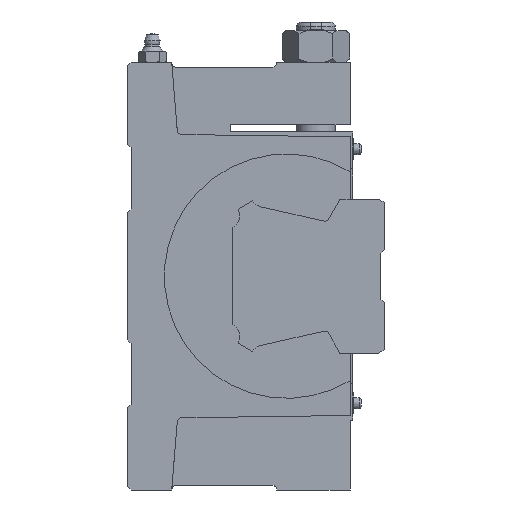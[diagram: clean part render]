
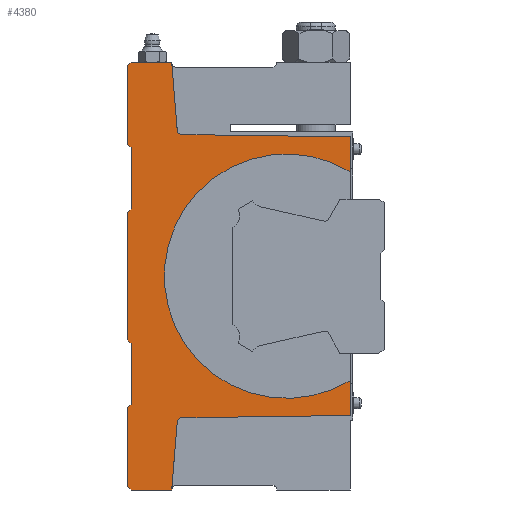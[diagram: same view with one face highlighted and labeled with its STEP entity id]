
A CAD part, left-side view. The second image highlights one B-rep face of the part: STEP entity #4380.
In plain terms, the highlighted planar face has unit normal (-1, 0, 0).
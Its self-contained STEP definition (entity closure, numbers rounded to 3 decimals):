
#221=CIRCLE('',#4725,2.);
#222=CIRCLE('',#4729,2.);
#231=CIRCLE('',#4763,50.);
#1007=ORIENTED_EDGE('',*,*,#1986,.F.);
#1008=ORIENTED_EDGE('',*,*,#1794,.F.);
#1009=ORIENTED_EDGE('',*,*,#1917,.F.);
#1010=ORIENTED_EDGE('',*,*,#1916,.T.);
#1011=ORIENTED_EDGE('',*,*,#1935,.F.);
#1012=ORIENTED_EDGE('',*,*,#1927,.F.);
#1013=ORIENTED_EDGE('',*,*,#1922,.F.);
#1014=ORIENTED_EDGE('',*,*,#1983,.F.);
#1015=ORIENTED_EDGE('',*,*,#1978,.F.);
#1016=ORIENTED_EDGE('',*,*,#1975,.F.);
#1017=ORIENTED_EDGE('',*,*,#1972,.F.);
#1018=ORIENTED_EDGE('',*,*,#1969,.F.);
#1019=ORIENTED_EDGE('',*,*,#1966,.F.);
#1020=ORIENTED_EDGE('',*,*,#1963,.F.);
#1021=ORIENTED_EDGE('',*,*,#1960,.F.);
#1022=ORIENTED_EDGE('',*,*,#1957,.F.);
#1023=ORIENTED_EDGE('',*,*,#1952,.F.);
#1024=ORIENTED_EDGE('',*,*,#1949,.F.);
#1025=ORIENTED_EDGE('',*,*,#1946,.F.);
#1026=ORIENTED_EDGE('',*,*,#1921,.T.);
#1027=ORIENTED_EDGE('',*,*,#1918,.F.);
#1028=ORIENTED_EDGE('',*,*,#1796,.F.);
#1794=EDGE_CURVE('',#2364,#2360,#2744,.T.);
#1796=EDGE_CURVE('',#2365,#2367,#2746,.T.);
#1916=EDGE_CURVE('',#2443,#2444,#221,.T.);
#1917=EDGE_CURVE('',#2443,#2364,#2848,.T.);
#1918=EDGE_CURVE('',#2367,#2445,#2849,.T.);
#1921=EDGE_CURVE('',#2446,#2445,#222,.T.);
#1922=EDGE_CURVE('',#2447,#2448,#2852,.T.);
#1927=EDGE_CURVE('',#2448,#2452,#2856,.T.);
#1935=EDGE_CURVE('',#2452,#2444,#2862,.T.);
#1946=EDGE_CURVE('',#2446,#2462,#2869,.T.);
#1949=EDGE_CURVE('',#2462,#2464,#2872,.T.);
#1952=EDGE_CURVE('',#2464,#2466,#2875,.T.);
#1957=EDGE_CURVE('',#2466,#2470,#2878,.T.);
#1960=EDGE_CURVE('',#2470,#2472,#2881,.T.);
#1963=EDGE_CURVE('',#2472,#2474,#2884,.T.);
#1966=EDGE_CURVE('',#2474,#2476,#2887,.T.);
#1969=EDGE_CURVE('',#2476,#2478,#2890,.T.);
#1972=EDGE_CURVE('',#2478,#2480,#2893,.T.);
#1975=EDGE_CURVE('',#2480,#2482,#2896,.T.);
#1978=EDGE_CURVE('',#2482,#2484,#2899,.T.);
#1983=EDGE_CURVE('',#2484,#2447,#2902,.T.);
#1986=EDGE_CURVE('',#2360,#2365,#231,.F.);
#2360=VERTEX_POINT('',#6712);
#2364=VERTEX_POINT('',#6721);
#2365=VERTEX_POINT('',#6725);
#2367=VERTEX_POINT('',#6728);
#2443=VERTEX_POINT('',#6949);
#2444=VERTEX_POINT('',#6951);
#2445=VERTEX_POINT('',#6957);
#2446=VERTEX_POINT('',#6961);
#2447=VERTEX_POINT('',#6965);
#2448=VERTEX_POINT('',#6966);
#2452=VERTEX_POINT('',#6976);
#2462=VERTEX_POINT('',#7011);
#2464=VERTEX_POINT('',#7017);
#2466=VERTEX_POINT('',#7023);
#2470=VERTEX_POINT('',#7033);
#2472=VERTEX_POINT('',#7039);
#2474=VERTEX_POINT('',#7045);
#2476=VERTEX_POINT('',#7051);
#2478=VERTEX_POINT('',#7057);
#2480=VERTEX_POINT('',#7063);
#2482=VERTEX_POINT('',#7069);
#2484=VERTEX_POINT('',#7075);
#2744=LINE('',#6722,#3140);
#2746=LINE('',#6727,#3142);
#2848=LINE('',#6954,#3244);
#2849=LINE('',#6956,#3245);
#2852=LINE('',#6964,#3248);
#2856=LINE('',#6975,#3252);
#2862=LINE('',#6989,#3258);
#2869=LINE('',#7010,#3265);
#2872=LINE('',#7016,#3268);
#2875=LINE('',#7022,#3271);
#2878=LINE('',#7032,#3274);
#2881=LINE('',#7038,#3277);
#2884=LINE('',#7044,#3280);
#2887=LINE('',#7050,#3283);
#2890=LINE('',#7056,#3286);
#2893=LINE('',#7062,#3289);
#2896=LINE('',#7068,#3292);
#2899=LINE('',#7074,#3295);
#2902=LINE('',#7084,#3298);
#3140=VECTOR('',#5385,1000.);
#3142=VECTOR('',#5389,1000.);
#3244=VECTOR('',#5585,1000.);
#3245=VECTOR('',#5588,1000.);
#3248=VECTOR('',#5597,1000.);
#3252=VECTOR('',#5605,1000.);
#3258=VECTOR('',#5617,1000.);
#3265=VECTOR('',#5642,1000.);
#3268=VECTOR('',#5647,1000.);
#3271=VECTOR('',#5652,1000.);
#3274=VECTOR('',#5661,1000.);
#3277=VECTOR('',#5666,1000.);
#3280=VECTOR('',#5671,1000.);
#3283=VECTOR('',#5676,1000.);
#3286=VECTOR('',#5681,1000.);
#3289=VECTOR('',#5686,1000.);
#3292=VECTOR('',#5691,1000.);
#3295=VECTOR('',#5696,1000.);
#3298=VECTOR('',#5705,1000.);
#3578=EDGE_LOOP('',(#1007,#1008,#1009,#1010,#1011,#1012,#1013,#1014,#1015,
#1016,#1017,#1018,#1019,#1020,#1021,#1022,#1023,#1024,#1025,#1026,#1027,
#1028));
#3930=FACE_BOUND('',#3578,.T.);
#4178=PLANE('',#4762);
#4380=ADVANCED_FACE('',(#3930),#4178,.F.);
#4725=AXIS2_PLACEMENT_3D('',#6952,#5581,#5582);
#4729=AXIS2_PLACEMENT_3D('',#6962,#5593,#5594);
#4762=AXIS2_PLACEMENT_3D('',#7088,#5711,#5712);
#4763=AXIS2_PLACEMENT_3D('',#7089,#5713,#5714);
#5385=DIRECTION('',(0.,0.,-1.));
#5389=DIRECTION('',(0.,0.,-1.));
#5581=DIRECTION('',(1.,0.,0.));
#5582=DIRECTION('',(0.,0.,-1.));
#5585=DIRECTION('',(0.,-1.,-0.014));
#5588=DIRECTION('',(0.,1.,-0.014));
#5593=DIRECTION('',(1.,0.,0.));
#5594=DIRECTION('',(0.,0.,-1.));
#5597=DIRECTION('',(0.,-0.707,0.707));
#5605=DIRECTION('',(0.,-1.,0.));
#5617=DIRECTION('',(0.,-0.081,-0.997));
#5642=DIRECTION('',(0.,0.081,-0.997));
#5647=DIRECTION('',(0.,1.,0.));
#5652=DIRECTION('',(0.,0.707,0.707));
#5661=DIRECTION('',(0.,0.,1.));
#5666=DIRECTION('',(0.,-0.707,0.707));
#5671=DIRECTION('',(0.,0.,1.));
#5676=DIRECTION('',(0.,0.707,0.707));
#5681=DIRECTION('',(0.,0.,1.));
#5686=DIRECTION('',(0.,-0.707,0.707));
#5691=DIRECTION('',(0.,0.,1.));
#5696=DIRECTION('',(0.,0.707,0.707));
#5705=DIRECTION('',(0.,0.,1.));
#5711=DIRECTION('',(1.,0.,0.));
#5712=DIRECTION('',(0.,0.,-1.));
#5713=DIRECTION('',(1.,0.,0.));
#5714=DIRECTION('',(0.,0.,-1.));
#6712=CARTESIAN_POINT('',(-75.,4.5,42.708));
#6721=CARTESIAN_POINT('',(-75.,4.5,57.));
#6722=CARTESIAN_POINT('',(-75.,4.5,57.));
#6725=CARTESIAN_POINT('',(-75.,4.5,-42.708));
#6727=CARTESIAN_POINT('',(-75.,4.5,57.));
#6728=CARTESIAN_POINT('',(-75.,4.5,-57.));
#6949=CARTESIAN_POINT('',(-75.,73.283,57.942));
#6951=CARTESIAN_POINT('',(-75.,75.249,59.78));
#6952=CARTESIAN_POINT('',(-75.,73.256,59.942));
#6954=CARTESIAN_POINT('',(-75.,73.283,57.942));
#6956=CARTESIAN_POINT('',(-75.,4.5,-57.));
#6957=CARTESIAN_POINT('',(-75.,73.283,-57.942));
#6961=CARTESIAN_POINT('',(-75.,75.249,-59.78));
#6962=CARTESIAN_POINT('',(-75.,73.256,-59.942));
#6964=CARTESIAN_POINT('',(-75.,95.5,86.1));
#6965=CARTESIAN_POINT('',(-75.,95.5,86.1));
#6966=CARTESIAN_POINT('',(-75.,94.1,87.5));
#6975=CARTESIAN_POINT('',(-75.,94.1,87.5));
#6976=CARTESIAN_POINT('',(-75.,77.5,87.5));
#6989=CARTESIAN_POINT('',(-75.,77.5,87.5));
#7010=CARTESIAN_POINT('',(-75.,75.249,-59.78));
#7011=CARTESIAN_POINT('',(-75.,77.5,-87.5));
#7016=CARTESIAN_POINT('',(-75.,77.5,-87.5));
#7017=CARTESIAN_POINT('',(-75.,94.1,-87.5));
#7022=CARTESIAN_POINT('',(-75.,94.1,-87.5));
#7023=CARTESIAN_POINT('',(-75.,95.5,-86.1));
#7032=CARTESIAN_POINT('',(-75.,95.5,-86.1));
#7033=CARTESIAN_POINT('',(-75.,95.5,-53.9));
#7038=CARTESIAN_POINT('',(-75.,95.5,-53.9));
#7039=CARTESIAN_POINT('',(-75.,94.1,-52.5));
#7044=CARTESIAN_POINT('',(-75.,94.1,-52.5));
#7045=CARTESIAN_POINT('',(-75.,94.1,-27.5));
#7050=CARTESIAN_POINT('',(-75.,94.1,-27.5));
#7051=CARTESIAN_POINT('',(-75.,95.5,-26.1));
#7056=CARTESIAN_POINT('',(-75.,95.5,-26.1));
#7057=CARTESIAN_POINT('',(-75.,95.5,26.1));
#7062=CARTESIAN_POINT('',(-75.,95.5,26.1));
#7063=CARTESIAN_POINT('',(-75.,94.1,27.5));
#7068=CARTESIAN_POINT('',(-75.,94.1,27.5));
#7069=CARTESIAN_POINT('',(-75.,94.1,52.5));
#7074=CARTESIAN_POINT('',(-75.,94.1,52.5));
#7075=CARTESIAN_POINT('',(-75.,95.5,53.9));
#7084=CARTESIAN_POINT('',(-75.,95.5,53.9));
#7088=CARTESIAN_POINT('',(-75.,73.256,59.942));
#7089=CARTESIAN_POINT('',(-75.,30.5,0.));
